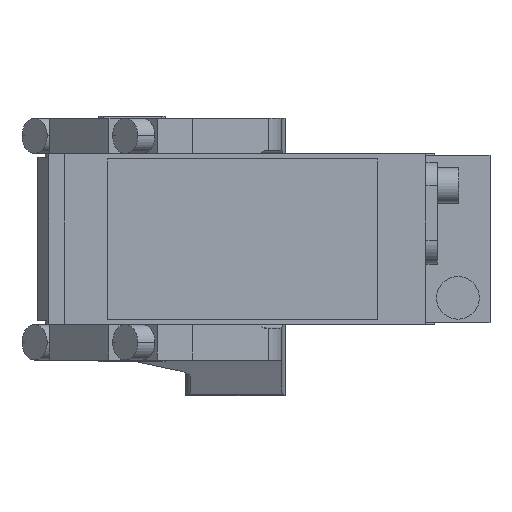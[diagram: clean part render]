
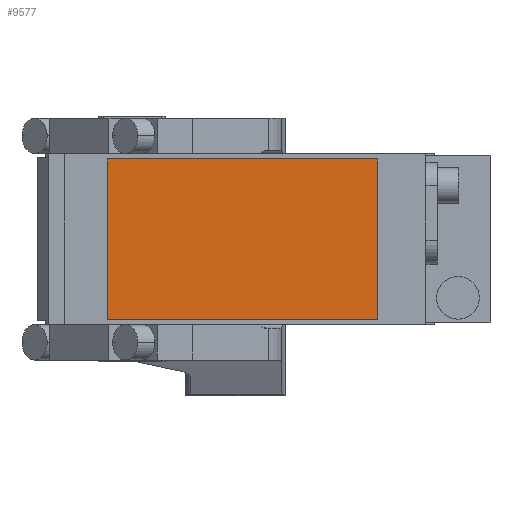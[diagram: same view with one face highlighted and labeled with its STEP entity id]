
A CAD part, front view. The second image highlights one B-rep face of the part: STEP entity #9577.
In plain terms, the highlighted planar face has unit normal (0, -1, 0).
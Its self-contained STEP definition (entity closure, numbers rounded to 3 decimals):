
#129 = EDGE_CURVE ( 'NONE', #3974, #1503, #11479, .T. ) ;
#319 = ORIENTED_EDGE ( 'NONE', *, *, #6421, .T. ) ;
#976 = DIRECTION ( 'NONE',  ( 1., 0., 0. ) ) ;
#1115 = CARTESIAN_POINT ( 'NONE',  ( -7., -280.5, -22.5 ) ) ;
#1220 = CARTESIAN_POINT ( 'NONE',  ( -7., -280.5, 22.5 ) ) ;
#1503 = VERTEX_POINT ( 'NONE', #1115 ) ;
#2264 = PLANE ( 'NONE',  #2520 ) ;
#2520 = AXIS2_PLACEMENT_3D ( 'NONE', #3399, #3253, #11922 ) ;
#2770 = EDGE_LOOP ( 'NONE', ( #5807, #319, #6578, #11729 ) ) ;
#2865 = VECTOR ( 'NONE', #12324, 1000. ) ;
#3027 = VECTOR ( 'NONE', #5855, 1000. ) ;
#3184 = FACE_OUTER_BOUND ( 'NONE', #2770, .T. ) ;
#3253 = DIRECTION ( 'NONE',  ( 0., -1., 0. ) ) ;
#3304 = LINE ( 'NONE', #9853, #6491 ) ;
#3399 = CARTESIAN_POINT ( 'NONE',  ( 0., -280.5, 0. ) ) ;
#3413 = VERTEX_POINT ( 'NONE', #10482 ) ;
#3666 = CARTESIAN_POINT ( 'NONE',  ( -7., -280.5, 22.5 ) ) ;
#3860 = CARTESIAN_POINT ( 'NONE',  ( -7., -280.5, 22.5 ) ) ;
#3926 = DIRECTION ( 'NONE',  ( 0., 0., -1. ) ) ;
#3974 = VERTEX_POINT ( 'NONE', #1220 ) ;
#4287 = VERTEX_POINT ( 'NONE', #9799 ) ;
#5349 = EDGE_CURVE ( 'NONE', #4287, #3413, #12247, .T. ) ;
#5807 = ORIENTED_EDGE ( 'NONE', *, *, #129, .T. ) ;
#5855 = DIRECTION ( 'NONE',  ( 0., 0., 1. ) ) ;
#6234 = EDGE_CURVE ( 'NONE', #3413, #3974, #12395, .T. ) ;
#6421 = EDGE_CURVE ( 'NONE', #1503, #4287, #3304, .T. ) ;
#6491 = VECTOR ( 'NONE', #976, 1000. ) ;
#6578 = ORIENTED_EDGE ( 'NONE', *, *, #5349, .T. ) ;
#9577 = ADVANCED_FACE ( 'NONE', ( #3184 ), #2264, .T. ) ;
#9799 = CARTESIAN_POINT ( 'NONE',  ( 69., -280.5, -22.5 ) ) ;
#9853 = CARTESIAN_POINT ( 'NONE',  ( -7., -280.5, -22.5 ) ) ;
#10333 = VECTOR ( 'NONE', #3926, 1000. ) ;
#10482 = CARTESIAN_POINT ( 'NONE',  ( 69., -280.5, 22.5 ) ) ;
#11281 = CARTESIAN_POINT ( 'NONE',  ( 69., -280.5, 22.5 ) ) ;
#11479 = LINE ( 'NONE', #3860, #10333 ) ;
#11729 = ORIENTED_EDGE ( 'NONE', *, *, #6234, .T. ) ;
#11922 = DIRECTION ( 'NONE',  ( 0., 0., -1. ) ) ;
#12247 = LINE ( 'NONE', #11281, #3027 ) ;
#12324 = DIRECTION ( 'NONE',  ( -1., 0., 0. ) ) ;
#12395 = LINE ( 'NONE', #3666, #2865 ) ;
